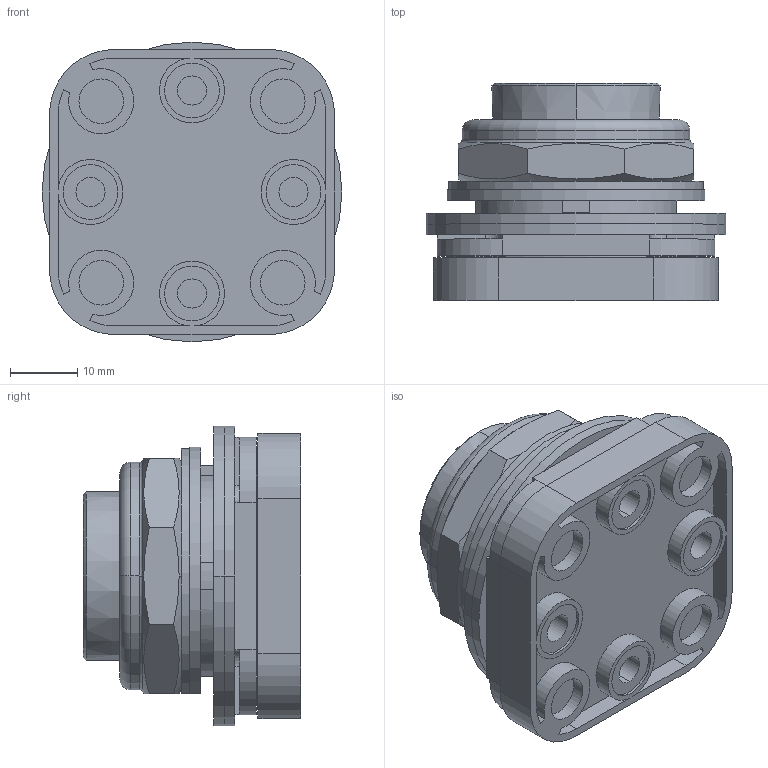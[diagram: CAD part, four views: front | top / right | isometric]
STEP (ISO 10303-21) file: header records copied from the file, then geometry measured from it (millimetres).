
FILE_DESCRIPTION((''),'2;1');
FILE_NAME('800T-K-S_ASM','2013-10-18T',('QMa'),('Rockwell Automation'),'PRO/ENGINEER BY PARAMETRIC TECHNOLOGY CORPORATION, 2010140','PRO/ENGINEER BY PARAMETRIC TECHNOLOGY CORPORATION, 2010140','');
FILE_SCHEMA(('CONFIG_CONTROL_DESIGN'));
Length unit declared in the file: inch
Products named in the file (8): 40274-199_S; 40274-201_S; GASKET-S; 40274-005_S; THRUST_WASHER-S; TRIM_WASHER-S; 40274-132-H-S; 800T-K-S_ASM
Assembly tree (8 placements, depth 2):
  800T-K-S_ASM
    40274-199_S
    40274-201_S
    GASKET-S  x2
    40274-005_S
    THRUST_WASHER-S
    TRIM_WASHER-S
    40274-132-H-S
Bounding box: 44.45 x 32.26 x 44.45 mm (x, y, z)
Volume: 31766.3 mm3; surface area: 22777.1 mm2
Topology: 8 solids, 8 shells, 252 faces, 632 edges, 414 vertices
Faces by surface type: plane 121, cylinder 113, cone 10, torus 6, bspline 2
Entity records: 7830 total; most frequent: CARTESIAN_POINT 1478, DIRECTION 1374, ORIENTED_EDGE 1240, EDGE_CURVE 620, AXIS2_PLACEMENT_3D 514, VERTEX_POINT 406, VECTOR 346, LINE 346
